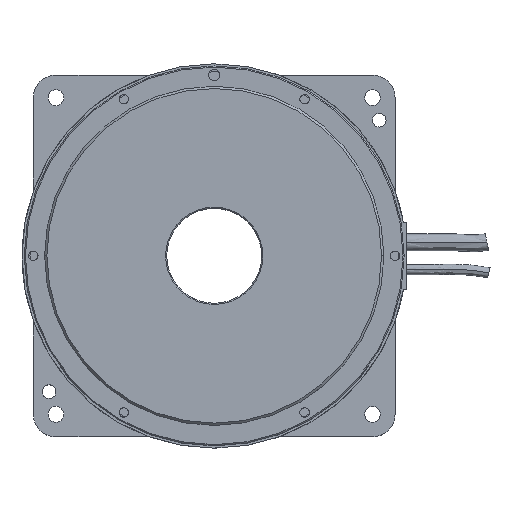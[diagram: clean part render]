
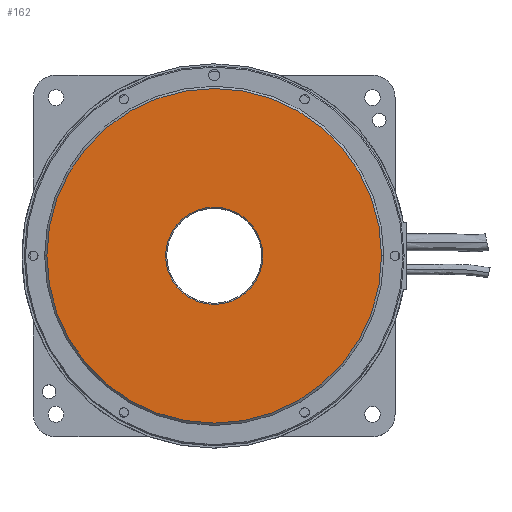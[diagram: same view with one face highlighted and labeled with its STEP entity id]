
A CAD part, top view. The second image highlights one B-rep face of the part: STEP entity #162.
In plain terms, the highlighted planar face has unit normal (0, 0, 1).
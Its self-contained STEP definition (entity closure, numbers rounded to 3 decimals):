
#33 = EDGE_LOOP ( 'NONE', ( #1387, #2671 ) ) ;
#98 = AXIS2_PLACEMENT_3D ( 'NONE', #103, #2439, #444 ) ;
#103 = CARTESIAN_POINT ( 'NONE',  ( 0., 0., 50. ) ) ;
#162 = ADVANCED_FACE ( 'NONE', ( #3344, #4124 ), #3088, .F. ) ;
#444 = DIRECTION ( 'NONE',  ( -1., 0., 0. ) ) ;
#446 = DIRECTION ( 'NONE',  ( 0., 0., 1. ) ) ;
#753 = AXIS2_PLACEMENT_3D ( 'NONE', #2948, #970, #3286 ) ;
#766 = EDGE_LOOP ( 'NONE', ( #4187, #2219 ) ) ;
#940 = VERTEX_POINT ( 'NONE', #3802 ) ;
#970 = DIRECTION ( 'NONE',  ( 0., 0., -1. ) ) ;
#1387 = ORIENTED_EDGE ( 'NONE', *, *, #2075, .T. ) ;
#1435 = EDGE_CURVE ( 'NONE', #3930, #3642, #2249, .T. ) ;
#1557 = DIRECTION ( 'NONE',  ( 0., 0., 1. ) ) ;
#1621 = AXIS2_PLACEMENT_3D ( 'NONE', #1794, #4111, #2139 ) ;
#1673 = AXIS2_PLACEMENT_3D ( 'NONE', #3532, #1557, #3861 ) ;
#1794 = CARTESIAN_POINT ( 'NONE',  ( 0., 0., 50. ) ) ;
#1826 = EDGE_CURVE ( 'NONE', #2009, #940, #2333, .T. ) ;
#2009 = VERTEX_POINT ( 'NONE', #3350 ) ;
#2075 = EDGE_CURVE ( 'NONE', #3642, #3930, #2922, .T. ) ;
#2139 = DIRECTION ( 'NONE',  ( -1., 0., 0. ) ) ;
#2219 = ORIENTED_EDGE ( 'NONE', *, *, #1826, .T. ) ;
#2249 = CIRCLE ( 'NONE', #753, 21.5 ) ;
#2268 = CIRCLE ( 'NONE', #3171, 74. ) ;
#2333 = CIRCLE ( 'NONE', #1673, 74. ) ;
#2372 = CARTESIAN_POINT ( 'NONE',  ( -21.5, 0., 50. ) ) ;
#2439 = DIRECTION ( 'NONE',  ( 0., 0., -1. ) ) ;
#2441 = CARTESIAN_POINT ( 'NONE',  ( 0., 0., 50. ) ) ;
#2671 = ORIENTED_EDGE ( 'NONE', *, *, #1435, .T. ) ;
#2771 = DIRECTION ( 'NONE',  ( -1., 0., 0. ) ) ;
#2789 = EDGE_CURVE ( 'NONE', #940, #2009, #2268, .T. ) ;
#2922 = CIRCLE ( 'NONE', #1621, 21.5 ) ;
#2948 = CARTESIAN_POINT ( 'NONE',  ( 0., 0., 50. ) ) ;
#3053 = CARTESIAN_POINT ( 'NONE',  ( 21.5, 0., 50. ) ) ;
#3088 = PLANE ( 'NONE',  #98 ) ;
#3171 = AXIS2_PLACEMENT_3D ( 'NONE', #2441, #446, #2771 ) ;
#3286 = DIRECTION ( 'NONE',  ( -1., 0., 0. ) ) ;
#3344 = FACE_OUTER_BOUND ( 'NONE', #766, .T. ) ;
#3350 = CARTESIAN_POINT ( 'NONE',  ( 74., 0., 50. ) ) ;
#3532 = CARTESIAN_POINT ( 'NONE',  ( 0., 0., 50. ) ) ;
#3642 = VERTEX_POINT ( 'NONE', #3053 ) ;
#3802 = CARTESIAN_POINT ( 'NONE',  ( -74., 0., 50. ) ) ;
#3861 = DIRECTION ( 'NONE',  ( -1., 0., 0. ) ) ;
#3930 = VERTEX_POINT ( 'NONE', #2372 ) ;
#4111 = DIRECTION ( 'NONE',  ( 0., 0., -1. ) ) ;
#4124 = FACE_BOUND ( 'NONE', #33, .T. ) ;
#4187 = ORIENTED_EDGE ( 'NONE', *, *, #2789, .T. ) ;
